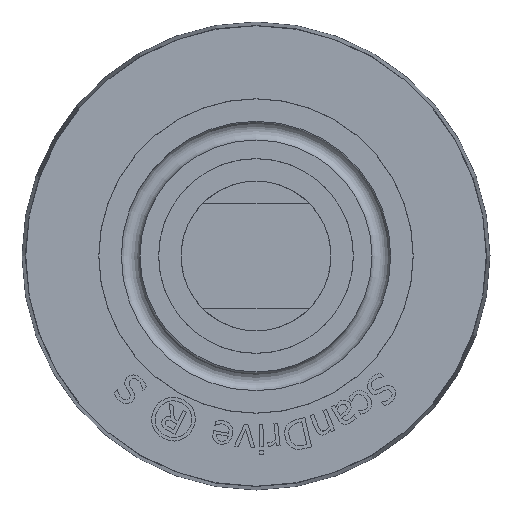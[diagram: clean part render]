
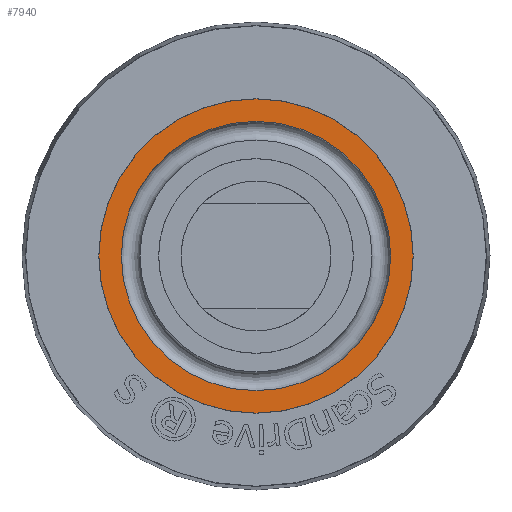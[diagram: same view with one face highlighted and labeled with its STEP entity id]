
A CAD part, left-side view. The second image highlights one B-rep face of the part: STEP entity #7940.
In plain terms, the highlighted planar face has unit normal (-1, 0, 0).
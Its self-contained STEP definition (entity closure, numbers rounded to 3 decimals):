
#60=CIRCLE('',#8324,17.99);
#61=CIRCLE('',#8326,20.99);
#151=FACE_BOUND('',#1490,.T.);
#1002=FACE_OUTER_BOUND('',#1489,.T.);
#1489=EDGE_LOOP('',(#6306));
#1490=EDGE_LOOP('',(#6307));
#3608=VERTEX_POINT('',#12298);
#3609=VERTEX_POINT('',#12301);
#4583=EDGE_CURVE('',#3608,#3608,#60,.T.);
#4584=EDGE_CURVE('',#3609,#3609,#61,.T.);
#6306=ORIENTED_EDGE('',*,*,#4584,.T.);
#6307=ORIENTED_EDGE('',*,*,#4583,.F.);
#7598=PLANE('',#8325);
#7940=ADVANCED_FACE('',(#1002,#151),#7598,.T.);
#8324=AXIS2_PLACEMENT_3D('',#12299,#9143,#9144);
#8325=AXIS2_PLACEMENT_3D('',#12300,#9145,#9146);
#8326=AXIS2_PLACEMENT_3D('',#12302,#9147,#9148);
#9143=DIRECTION('center_axis',(-1.,0.,0.));
#9144=DIRECTION('ref_axis',(0.,0.,1.));
#9145=DIRECTION('center_axis',(-1.,0.,0.));
#9146=DIRECTION('ref_axis',(0.,0.,1.));
#9147=DIRECTION('center_axis',(-1.,0.,0.));
#9148=DIRECTION('ref_axis',(0.,0.,1.));
#12298=CARTESIAN_POINT('',(-300.,0.,17.99));
#12299=CARTESIAN_POINT('Origin',(-300.,0.,0.));
#12300=CARTESIAN_POINT('Origin',(-300.,0.,17.99));
#12301=CARTESIAN_POINT('',(-300.,0.,20.99));
#12302=CARTESIAN_POINT('Origin',(-300.,0.,0.));
